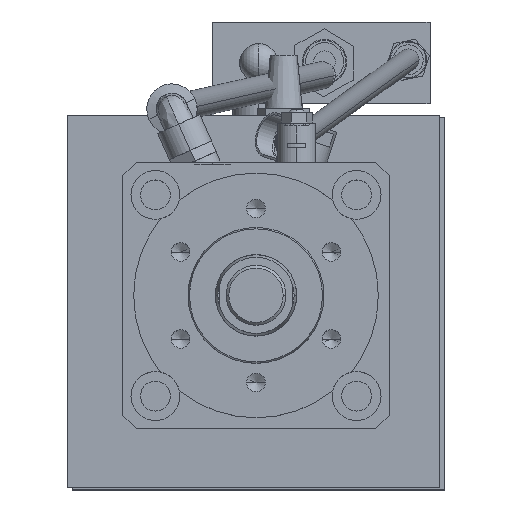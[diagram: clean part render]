
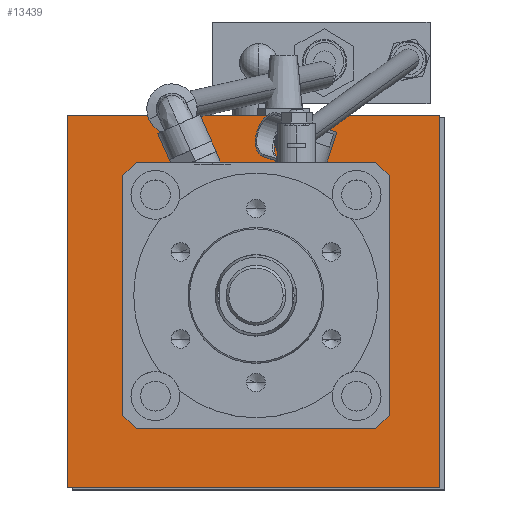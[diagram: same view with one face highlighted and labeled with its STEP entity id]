
A CAD part, top view. The second image highlights one B-rep face of the part: STEP entity #13439.
In plain terms, the highlighted planar face has unit normal (0, 0, 1).
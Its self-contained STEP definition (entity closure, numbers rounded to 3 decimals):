
#528 = EDGE_CURVE ( 'NONE', #9167, #18787, #21503, .T. ) ;
#1609 = VERTEX_POINT ( 'NONE', #21711 ) ;
#2151 = PLANE ( 'NONE',  #19962 ) ;
#2277 = FACE_OUTER_BOUND ( 'NONE', #16008, .T. ) ;
#2409 = VECTOR ( 'NONE', #18669, 1000. ) ;
#2889 = LINE ( 'NONE', #17338, #25807 ) ;
#2968 = ORIENTED_EDGE ( 'NONE', *, *, #12018, .F. ) ;
#4894 = LINE ( 'NONE', #22637, #2409 ) ;
#4974 = VERTEX_POINT ( 'NONE', #22605 ) ;
#6211 = EDGE_CURVE ( 'NONE', #4974, #9167, #4894, .T. ) ;
#7219 = ORIENTED_EDGE ( 'NONE', *, *, #6211, .F. ) ;
#7704 = CARTESIAN_POINT ( 'NONE',  ( 719.403, -1871.547, -1345.558 ) ) ;
#9167 = VERTEX_POINT ( 'NONE', #9507 ) ;
#9507 = CARTESIAN_POINT ( 'NONE',  ( 719.403, -1871.547, -1345.558 ) ) ;
#10235 = DIRECTION ( 'NONE',  ( 0., 0., -1. ) ) ;
#10364 = DIRECTION ( 'NONE',  ( -1., 0., 0. ) ) ;
#10675 = CARTESIAN_POINT ( 'NONE',  ( 582.403, -1871.547, -1345.558 ) ) ;
#12018 = EDGE_CURVE ( 'NONE', #18787, #1609, #2889, .T. ) ;
#12806 = DIRECTION ( 'NONE',  ( -1., 0., 0. ) ) ;
#13439 = ADVANCED_FACE ( 'NONE', ( #2277 ), #2151, .F. ) ;
#16008 = EDGE_LOOP ( 'NONE', ( #21702, #7219, #16542, #2968 ) ) ;
#16542 = ORIENTED_EDGE ( 'NONE', *, *, #19836, .F. ) ;
#16757 = LINE ( 'NONE', #10675, #24368 ) ;
#16795 = VECTOR ( 'NONE', #23870, 1000. ) ;
#17338 = CARTESIAN_POINT ( 'NONE',  ( 719.403, -2008.547, -1345.558 ) ) ;
#18190 = CARTESIAN_POINT ( 'NONE',  ( 664.403, -2453.83, -1345.558 ) ) ;
#18605 = DIRECTION ( 'NONE',  ( 0., 1., 0. ) ) ;
#18669 = DIRECTION ( 'NONE',  ( 1., 0., 0. ) ) ;
#18787 = VERTEX_POINT ( 'NONE', #21603 ) ;
#19836 = EDGE_CURVE ( 'NONE', #1609, #4974, #16757, .T. ) ;
#19962 = AXIS2_PLACEMENT_3D ( 'NONE', #18190, #10235, #10364 ) ;
#21503 = LINE ( 'NONE', #7704, #16795 ) ;
#21603 = CARTESIAN_POINT ( 'NONE',  ( 719.403, -2008.547, -1345.558 ) ) ;
#21702 = ORIENTED_EDGE ( 'NONE', *, *, #528, .F. ) ;
#21711 = CARTESIAN_POINT ( 'NONE',  ( 582.403, -2008.547, -1345.558 ) ) ;
#22605 = CARTESIAN_POINT ( 'NONE',  ( 582.403, -1871.547, -1345.558 ) ) ;
#22637 = CARTESIAN_POINT ( 'NONE',  ( 719.403, -1871.547, -1345.558 ) ) ;
#23870 = DIRECTION ( 'NONE',  ( 0., -1., 0. ) ) ;
#24368 = VECTOR ( 'NONE', #18605, 1000. ) ;
#25807 = VECTOR ( 'NONE', #12806, 1000. ) ;
